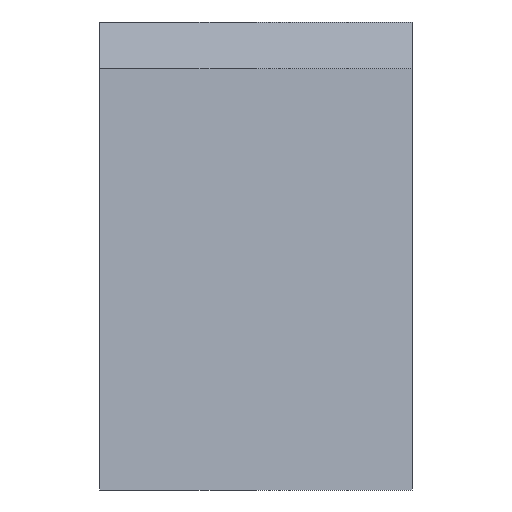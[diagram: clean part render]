
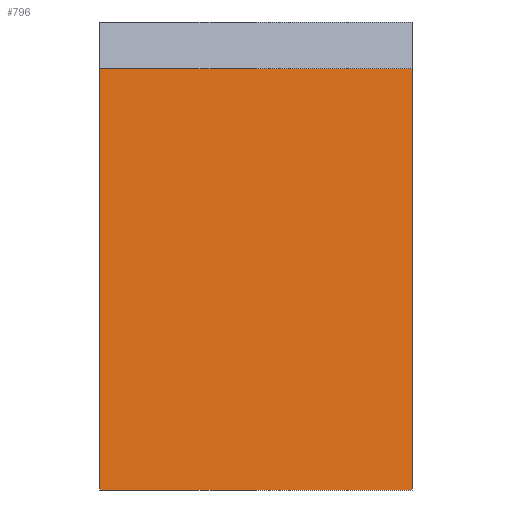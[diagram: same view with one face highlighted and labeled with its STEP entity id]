
A CAD part, front view. The second image highlights one B-rep face of the part: STEP entity #796.
In plain terms, the highlighted planar face has unit normal (0, -0.995, 0.104).
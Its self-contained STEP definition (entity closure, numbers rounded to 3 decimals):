
#32 = PLANE('',#33);
#33 = AXIS2_PLACEMENT_3D('',#34,#35,#36);
#34 = CARTESIAN_POINT('',(1.,11.557,-99.5));
#35 = DIRECTION('',(1.,-0.,-0.));
#36 = DIRECTION('',(0.,0.,-1.));
#169 = VERTEX_POINT('',#170);
#170 = CARTESIAN_POINT('',(1.,11.665,-88.));
#184 = PLANE('',#185);
#185 = AXIS2_PLACEMENT_3D('',#186,#187,#188);
#186 = CARTESIAN_POINT('',(-400.,400.,-88.));
#187 = DIRECTION('',(0.,0.,1.));
#188 = DIRECTION('',(-1.,0.,0.));
#196 = EDGE_CURVE('',#169,#197,#199,.T.);
#197 = VERTEX_POINT('',#198);
#198 = CARTESIAN_POINT('',(1.,14.503,-61.));
#199 = SURFACE_CURVE('',#200,(#204,#211),.PCURVE_S1.);
#200 = LINE('',#201,#202);
#201 = CARTESIAN_POINT('',(1.,6.41,-138.));
#202 = VECTOR('',#203,1.);
#203 = DIRECTION('',(-0.,0.105,0.995));
#204 = PCURVE('',#32,#205);
#205 = DEFINITIONAL_REPRESENTATION('',(#206),#210);
#206 = LINE('',#207,#208);
#207 = CARTESIAN_POINT('',(38.5,-5.147));
#208 = VECTOR('',#209,1.);
#209 = DIRECTION('',(-0.995,0.105));
#210 = ( GEOMETRIC_REPRESENTATION_CONTEXT(2) 
PARAMETRIC_REPRESENTATION_CONTEXT() REPRESENTATION_CONTEXT('2D SPACE',''
  ) );
#211 = PCURVE('',#212,#217);
#212 = PLANE('',#213);
#213 = AXIS2_PLACEMENT_3D('',#214,#215,#216);
#214 = CARTESIAN_POINT('',(1.,6.41,-138.));
#215 = DIRECTION('',(0.,0.995,-0.105));
#216 = DIRECTION('',(0.,-0.105,-0.995));
#217 = DEFINITIONAL_REPRESENTATION('',(#218),#222);
#218 = LINE('',#219,#220);
#219 = CARTESIAN_POINT('',(-0.,0.));
#220 = VECTOR('',#221,1.);
#221 = DIRECTION('',(-1.,0.));
#222 = ( GEOMETRIC_REPRESENTATION_CONTEXT(2) 
PARAMETRIC_REPRESENTATION_CONTEXT() REPRESENTATION_CONTEXT('2D SPACE',''
  ) );
#240 = PLANE('',#241);
#241 = AXIS2_PLACEMENT_3D('',#242,#243,#244);
#242 = CARTESIAN_POINT('',(1.,14.503,-61.));
#243 = DIRECTION('',(-0.,-0.,-1.));
#244 = DIRECTION('',(0.,-1.,0.));
#519 = PLANE('',#520);
#520 = AXIS2_PLACEMENT_3D('',#521,#522,#523);
#521 = CARTESIAN_POINT('',(21.,11.557,-99.5));
#522 = DIRECTION('',(1.,-0.,-0.));
#523 = DIRECTION('',(0.,0.,-1.));
#751 = EDGE_CURVE('',#197,#752,#754,.T.);
#752 = VERTEX_POINT('',#753);
#753 = CARTESIAN_POINT('',(21.,14.503,-61.));
#754 = SURFACE_CURVE('',#755,(#759,#766),.PCURVE_S1.);
#755 = LINE('',#756,#757);
#756 = CARTESIAN_POINT('',(1.,14.503,-61.));
#757 = VECTOR('',#758,1.);
#758 = DIRECTION('',(1.,-0.,-0.));
#759 = PCURVE('',#240,#760);
#760 = DEFINITIONAL_REPRESENTATION('',(#761),#765);
#761 = LINE('',#762,#763);
#762 = CARTESIAN_POINT('',(-0.,0.));
#763 = VECTOR('',#764,1.);
#764 = DIRECTION('',(-0.,-1.));
#765 = ( GEOMETRIC_REPRESENTATION_CONTEXT(2) 
PARAMETRIC_REPRESENTATION_CONTEXT() REPRESENTATION_CONTEXT('2D SPACE',''
  ) );
#766 = PCURVE('',#212,#767);
#767 = DEFINITIONAL_REPRESENTATION('',(#768),#772);
#768 = LINE('',#769,#770);
#769 = CARTESIAN_POINT('',(-77.424,0.));
#770 = VECTOR('',#771,1.);
#771 = DIRECTION('',(-0.,-1.));
#772 = ( GEOMETRIC_REPRESENTATION_CONTEXT(2) 
PARAMETRIC_REPRESENTATION_CONTEXT() REPRESENTATION_CONTEXT('2D SPACE',''
  ) );
#796 = ADVANCED_FACE('',(#797),#212,.F.);
#797 = FACE_BOUND('',#798,.T.);
#798 = EDGE_LOOP('',(#799,#800,#823,#844));
#799 = ORIENTED_EDGE('',*,*,#196,.F.);
#800 = ORIENTED_EDGE('',*,*,#801,.F.);
#801 = EDGE_CURVE('',#802,#169,#804,.T.);
#802 = VERTEX_POINT('',#803);
#803 = CARTESIAN_POINT('',(21.,11.665,-88.));
#804 = SURFACE_CURVE('',#805,(#809,#816),.PCURVE_S1.);
#805 = LINE('',#806,#807);
#806 = CARTESIAN_POINT('',(-199.5,11.665,-88.));
#807 = VECTOR('',#808,1.);
#808 = DIRECTION('',(-1.,-0.,0.));
#809 = PCURVE('',#212,#810);
#810 = DEFINITIONAL_REPRESENTATION('',(#811),#815);
#811 = LINE('',#812,#813);
#812 = CARTESIAN_POINT('',(-50.275,200.5));
#813 = VECTOR('',#814,1.);
#814 = DIRECTION('',(-0.,1.));
#815 = ( GEOMETRIC_REPRESENTATION_CONTEXT(2) 
PARAMETRIC_REPRESENTATION_CONTEXT() REPRESENTATION_CONTEXT('2D SPACE',''
  ) );
#816 = PCURVE('',#184,#817);
#817 = DEFINITIONAL_REPRESENTATION('',(#818),#822);
#818 = LINE('',#819,#820);
#819 = CARTESIAN_POINT('',(-200.5,388.335));
#820 = VECTOR('',#821,1.);
#821 = DIRECTION('',(1.,-0.));
#822 = ( GEOMETRIC_REPRESENTATION_CONTEXT(2) 
PARAMETRIC_REPRESENTATION_CONTEXT() REPRESENTATION_CONTEXT('2D SPACE',''
  ) );
#823 = ORIENTED_EDGE('',*,*,#824,.T.);
#824 = EDGE_CURVE('',#802,#752,#825,.T.);
#825 = SURFACE_CURVE('',#826,(#830,#837),.PCURVE_S1.);
#826 = LINE('',#827,#828);
#827 = CARTESIAN_POINT('',(21.,6.41,-138.));
#828 = VECTOR('',#829,1.);
#829 = DIRECTION('',(-0.,0.105,0.995));
#830 = PCURVE('',#212,#831);
#831 = DEFINITIONAL_REPRESENTATION('',(#832),#836);
#832 = LINE('',#833,#834);
#833 = CARTESIAN_POINT('',(-0.,-20.));
#834 = VECTOR('',#835,1.);
#835 = DIRECTION('',(-1.,0.));
#836 = ( GEOMETRIC_REPRESENTATION_CONTEXT(2) 
PARAMETRIC_REPRESENTATION_CONTEXT() REPRESENTATION_CONTEXT('2D SPACE',''
  ) );
#837 = PCURVE('',#519,#838);
#838 = DEFINITIONAL_REPRESENTATION('',(#839),#843);
#839 = LINE('',#840,#841);
#840 = CARTESIAN_POINT('',(38.5,-5.147));
#841 = VECTOR('',#842,1.);
#842 = DIRECTION('',(-0.995,0.105));
#843 = ( GEOMETRIC_REPRESENTATION_CONTEXT(2) 
PARAMETRIC_REPRESENTATION_CONTEXT() REPRESENTATION_CONTEXT('2D SPACE',''
  ) );
#844 = ORIENTED_EDGE('',*,*,#751,.F.);
